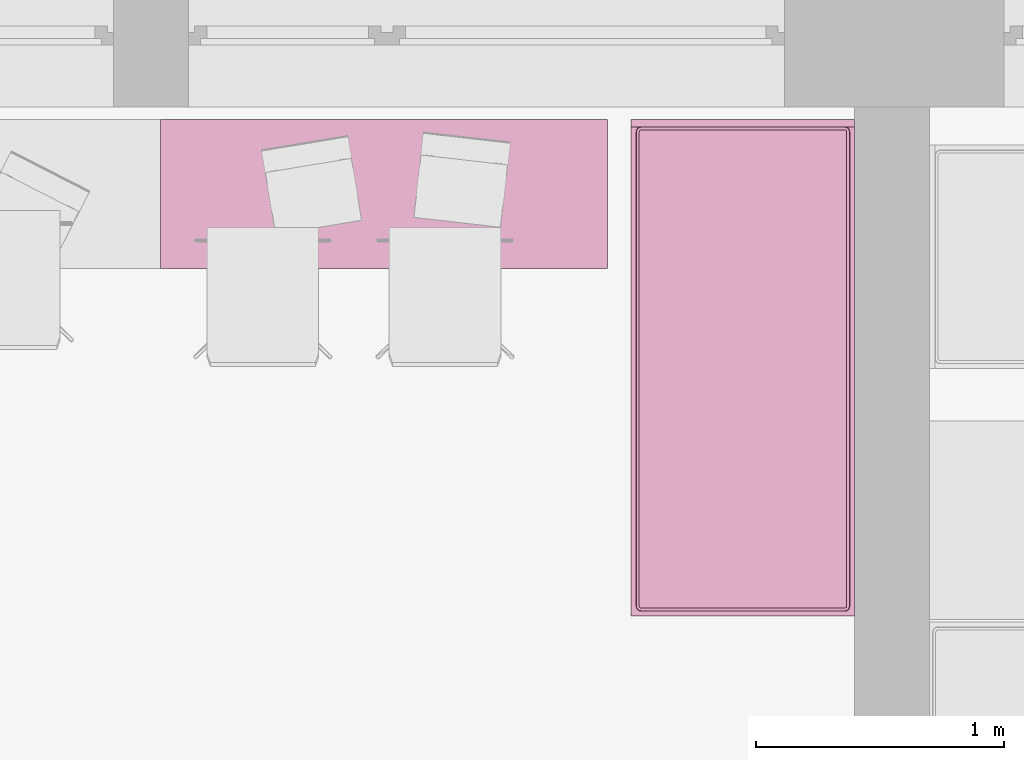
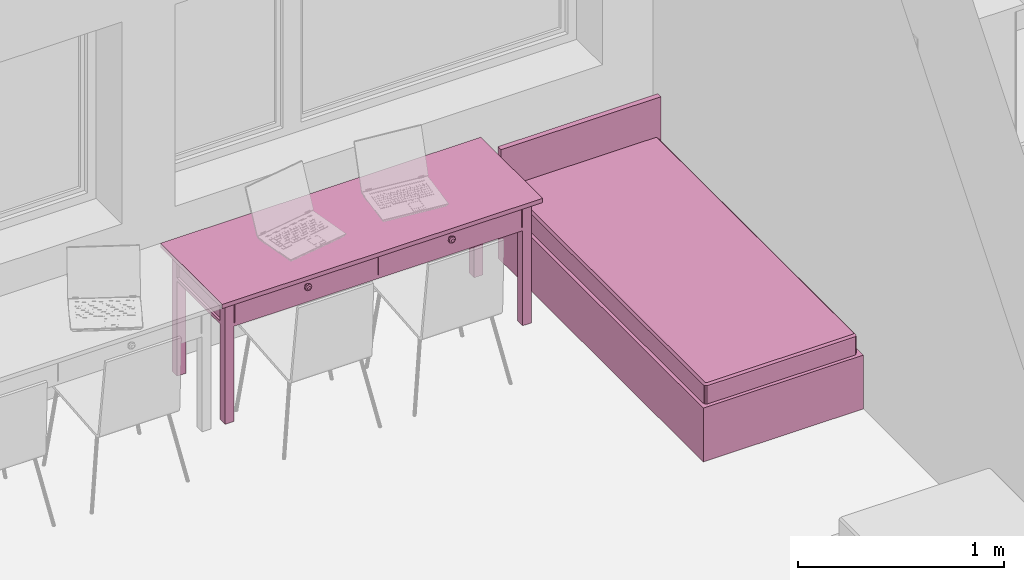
# One storey, part 91 of 172: 2 furnishings.
"""IFC2X3 building model written with IfcOpenShell, lengths in millimetres."""

from ifc_helpers import new_model, entity, si_unit, converted_unit, money_unit, direction, frame, origin_with_axes, place, context, subcontext, project, spatial, faceted_brep, source, transform, mapped, material, material_list, type_object, element, save


model = new_model("IFC2X3")

# Units and contexts
model_context = context("Model", 3, precision=1e-05, world=origin_with_axes(), true_north=direction((0.0, 1.0)))
body_context = subcontext(model_context, "Body", "Model", "MODEL_VIEW")
ifc_project = project(units=[si_unit("LENGTHUNIT", "METRE", prefix="MILLI"), si_unit("AREAUNIT", "SQUARE_METRE"), si_unit("VOLUMEUNIT", "CUBIC_METRE"), converted_unit("PLANEANGLEUNIT", "DEGREE", entity("IfcPlaneAngleMeasure", 0.0174532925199), si_unit("PLANEANGLEUNIT", "RADIAN"), dimensions=[0, 0, 0, 0, 0, 0, 0]), si_unit("SOLIDANGLEUNIT", "STERADIAN"), money_unit("USD"), converted_unit("TIMEUNIT", "Year", entity("IfcTimeMeasure", 31556926.0), si_unit("TIMEUNIT", "SECOND"), dimensions=[0, 0, 0, 0, 0, 0, 0]), si_unit("MASSUNIT", "GRAM"), si_unit("THERMODYNAMICTEMPERATUREUNIT", "DEGREE_CELSIUS"), si_unit("LUMINOUSINTENSITYUNIT", "LUMEN")], contexts=[model_context])

# Site, building, storey
site_placement = place(None, origin_with_axes())
site = spatial("IfcSite", under=ifc_project, at=site_placement, Name="Site", CompositionType="ELEMENT")
building_placement = place(site_placement, origin_with_axes())
building = spatial("IfcBuilding", under=site, at=building_placement, Name="Building", CompositionType="ELEMENT")
storey_placement = place(building_placement, frame((0.0, 0.0, 3200.0), z_axis=(0.0, 0.0, 1.0), x_axis=(1.0, 0.0, 0.0)))
storey = spatial("IfcBuildingStorey", under=building, at=storey_placement, Name="3KORRUS", CompositionType="ELEMENT", Elevation=3200.0)

# Furnishings
ifc_material = material(Name="Background")
ifc_material_list = material_list([ifc_material])
furnishing_element_type_1 = type_object("IfcFurnishingElementType", Name="Bed 19")
shared_shape_1 = source(origin_with_axes(), body_context, "Body", "Brep", [
    faceted_brep([(900.0, 1970.0, 0.0), (0.0, 1970.0, 0.0), (0.0, 2000.0, 0.0), (900.0, 2000.0, 0.0), (900.0, 1970.0, 660.0), (0.0, 1970.0, 660.0), (0.0, 2000.0, 660.0), (900.0, 2000.0, 660.0)], [[[0, 1, 2, 3]], [[1, 0, 4, 5]], [[2, 1, 5, 6]], [[3, 2, 6, 7]], [[0, 3, 7, 4]], [[5, 4, 7, 6]]]),
    faceted_brep([(900.0, 0.0, 0.0), (0.0, 0.0, 0.0), (0.0, 1970.0, 0.0), (900.0, 1970.0, 0.0), (900.0, 0.0, 320.0), (0.0, 0.0, 320.0), (0.0, 1970.0, 320.0), (900.0, 1970.0, 320.0)], [[[0, 1, 2, 3]], [[1, 0, 4, 5]], [[2, 1, 5, 6]], [[3, 2, 6, 7]], [[0, 3, 7, 4]], [[5, 4, 7, 6]]]),
    faceted_brep([(905.0, 10.0, 30.0), (900.0, 10.0, 30.0), (900.0, 695.0, 30.0), (905.0, 695.0, 30.0), (905.0, 10.0, 290.0), (900.0, 10.0, 290.0), (900.0, 695.0, 290.0), (905.0, 695.0, 290.0)], [[[0, 1, 2, 3]], [[1, 0, 4, 5]], [[2, 1, 5, 6]], [[3, 2, 6, 7]], [[0, 3, 7, 4]], [[5, 4, 7, 6]]]),
    faceted_brep([(935.0, 307.5, 150.0), (905.0, 307.5, 150.0), (905.0, 397.5, 150.0), (935.0, 397.5, 150.0), (935.0, 307.5, 170.0), (905.0, 307.5, 170.0), (905.0, 397.5, 170.0), (935.0, 397.5, 170.0)], [[[0, 1, 2, 3]], [[1, 0, 4, 5]], [[2, 1, 5, 6]], [[3, 2, 6, 7]], [[0, 3, 7, 4]], [[5, 4, 7, 6]]]),
    faceted_brep([(905.0, 705.0, 30.0), (900.0, 705.0, 30.0), (900.0, 1390.0, 30.0), (905.0, 1390.0, 30.0), (905.0, 705.0, 290.0), (900.0, 705.0, 290.0), (900.0, 1390.0, 290.0), (905.0, 1390.0, 290.0)], [[[0, 1, 2, 3]], [[1, 0, 4, 5]], [[2, 1, 5, 6]], [[3, 2, 6, 7]], [[0, 3, 7, 4]], [[5, 4, 7, 6]]]),
    faceted_brep([(935.0, 1002.5, 150.0), (905.0, 1002.5, 150.0), (905.0, 1092.5, 150.0), (935.0, 1092.5, 150.0), (935.0, 1002.5, 170.0), (905.0, 1002.5, 170.0), (905.0, 1092.5, 170.0), (935.0, 1092.5, 170.0)], [[[0, 1, 2, 3]], [[1, 0, 4, 5]], [[2, 1, 5, 6]], [[3, 2, 6, 7]], [[0, 3, 7, 4]], [[5, 4, 7, 6]]]),
    faceted_brep([(20.0, 40.0, 350.0), (20.0, 1950.0, 350.0), (21.522, 1957.654, 350.0), (25.858, 1964.142, 350.0), (32.346, 1968.478, 350.0), (40.0, 1970.0, 350.0), (860.0, 1970.0, 350.0), (867.654, 1968.478, 350.0), (874.142, 1964.142, 350.0), (878.478, 1957.654, 350.0), (880.0, 1950.0, 350.0), (880.0, 40.0, 350.0), (878.478, 32.346, 350.0), (874.142, 25.858, 350.0), (867.654, 21.522, 350.0), (860.0, 20.0, 350.0), (40.0, 20.0, 350.0), (32.346, 21.522, 350.0), (25.858, 25.858, 350.0), (21.522, 32.346, 350.0), (20.0, 40.0, 420.0), (20.0, 1950.0, 420.0), (21.522, 1957.654, 420.0), (25.858, 1964.142, 420.0), (32.346, 1968.478, 420.0), (40.0, 1970.0, 420.0), (860.0, 1970.0, 420.0), (867.654, 1968.478, 420.0), (874.142, 1964.142, 420.0), (878.478, 1957.654, 420.0), (880.0, 1950.0, 420.0), (880.0, 40.0, 420.0), (878.478, 32.346, 420.0), (874.142, 25.858, 420.0), (867.654, 21.522, 420.0), (860.0, 20.0, 420.0), (40.0, 20.0, 420.0), (32.346, 21.522, 420.0), (25.858, 25.858, 420.0), (21.522, 32.346, 420.0), (21.522, 40.15, 427.654), (21.522, 1949.85, 427.654), (22.956, 1957.06, 427.654), (26.955, 1963.045, 427.654), (32.94, 1967.044, 427.654), (40.15, 1968.478, 427.654), (859.85, 1968.478, 427.654), (867.06, 1967.044, 427.654), (873.045, 1963.045, 427.654), (877.044, 1957.06, 427.654), (878.478, 1949.85, 427.654), (878.478, 40.15, 427.654), (877.044, 32.94, 427.654), (873.045, 26.955, 427.654), (867.06, 22.956, 427.654), (859.85, 21.522, 427.654), (40.15, 21.522, 427.654), (32.94, 22.956, 427.654), (26.955, 26.955, 427.654), (22.956, 32.94, 427.654), (32.346, 41.216, 438.478), (32.346, 1948.784, 438.478), (33.152, 1952.836, 438.478), (34.759, 1955.241, 438.478), (37.164, 1956.848, 438.478), (41.216, 1957.654, 438.478), (858.784, 1957.654, 438.478), (862.836, 1956.848, 438.478), (865.241, 1955.241, 438.478), (866.848, 1952.836, 438.478), (867.654, 1948.784, 438.478), (867.654, 41.216, 438.478), (866.848, 37.164, 438.478), (865.241, 34.759, 438.478), (862.836, 33.152, 438.478), (858.784, 32.346, 438.478), (41.216, 32.346, 438.478), (37.164, 33.152, 438.478), (34.759, 34.759, 438.478), (33.152, 37.164, 438.478), (40.0, 41.97, 440.0), (40.0, 1948.03, 440.0), (40.327, 1949.673, 440.0), (40.0, 1950.0, 439.924), (41.97, 1950.0, 440.0), (858.03, 1950.0, 440.0), (859.673, 1949.673, 440.0), (860.0, 1950.0, 439.924), (860.0, 1948.03, 440.0), (860.0, 41.97, 440.0), (859.673, 40.327, 440.0), (860.0, 40.0, 439.924), (858.03, 40.0, 440.0), (41.97, 40.0, 440.0), (40.327, 40.327, 440.0), (40.0, 40.0, 439.924)], [[[0, 1, 2, 3, 4, 5, 6, 7, 8, 9, 10, 11, 12, 13, 14, 15, 16, 17, 18, 19]], [[1, 0, 20, 21]], [[2, 1, 21, 22]], [[3, 2, 22, 23]], [[4, 3, 23, 24]], [[5, 4, 24, 25]], [[6, 5, 25, 26]], [[7, 6, 26, 27]], [[8, 7, 27, 28]], [[9, 8, 28, 29]], [[10, 9, 29, 30]], [[11, 10, 30, 31]], [[12, 11, 31, 32]], [[13, 12, 32, 33]], [[14, 13, 33, 34]], [[15, 14, 34, 35]], [[16, 15, 35, 36]], [[17, 16, 36, 37]], [[18, 17, 37, 38]], [[19, 18, 38, 39]], [[0, 19, 39, 20]], [[21, 20, 40, 41]], [[22, 21, 41, 42]], [[23, 22, 42, 43]], [[24, 23, 43, 44]], [[25, 24, 44, 45]], [[26, 25, 45, 46]], [[27, 26, 46, 47]], [[28, 27, 47, 48]], [[29, 28, 48, 49]], [[30, 29, 49, 50]], [[31, 30, 50, 51]], [[32, 31, 51, 52]], [[33, 32, 52, 53]], [[34, 33, 53, 54]], [[35, 34, 54, 55]], [[36, 35, 55, 56]], [[37, 36, 56, 57]], [[38, 37, 57, 58]], [[39, 38, 58, 59]], [[20, 39, 59, 40]], [[41, 40, 60, 61]], [[42, 41, 61, 62]], [[43, 42, 62, 63]], [[44, 43, 63, 64]], [[45, 44, 64, 65]], [[46, 45, 65, 66]], [[47, 46, 66, 67]], [[48, 47, 67, 68]], [[49, 48, 68, 69]], [[50, 49, 69, 70]], [[51, 50, 70, 71]], [[52, 51, 71, 72]], [[53, 52, 72, 73]], [[54, 53, 73, 74]], [[55, 54, 74, 75]], [[56, 55, 75, 76]], [[57, 56, 76, 77]], [[58, 57, 77, 78]], [[59, 58, 78, 79]], [[40, 59, 79, 60]], [[61, 60, 80, 81]], [[62, 61, 81, 82, 83]], [[63, 62, 83]], [[64, 63, 83]], [[65, 64, 83, 82, 84]], [[66, 65, 84, 85]], [[67, 66, 85, 86, 87]], [[68, 67, 87]], [[69, 68, 87]], [[70, 69, 87, 86, 88]], [[71, 70, 88, 89]], [[72, 71, 89, 90, 91]], [[73, 72, 91]], [[74, 73, 91]], [[75, 74, 91, 90, 92]], [[76, 75, 92, 93]], [[77, 76, 93, 94, 95]], [[78, 77, 95]], [[79, 78, 95]], [[60, 79, 95, 94, 80]], [[81, 80, 94, 93, 92, 90, 89, 88, 86, 85, 84, 82]]]),
    faceted_brep([(20.0, 40.0, 350.0), (21.522, 32.346, 350.0), (25.858, 25.858, 350.0), (32.346, 21.522, 350.0), (40.0, 20.0, 350.0), (860.0, 20.0, 350.0), (867.654, 21.522, 350.0), (874.142, 25.858, 350.0), (878.478, 32.346, 350.0), (880.0, 40.0, 350.0), (880.0, 1950.0, 350.0), (878.478, 1957.654, 350.0), (874.142, 1964.142, 350.0), (867.654, 1968.478, 350.0), (860.0, 1970.0, 350.0), (40.0, 1970.0, 350.0), (32.346, 1968.478, 350.0), (25.858, 1964.142, 350.0), (21.522, 1957.654, 350.0), (20.0, 1950.0, 350.0), (20.0, 40.0, 320.0), (21.522, 32.346, 320.0), (25.858, 25.858, 320.0), (32.346, 21.522, 320.0), (40.0, 20.0, 320.0), (860.0, 20.0, 320.0), (867.654, 21.522, 320.0), (874.142, 25.858, 320.0), (878.478, 32.346, 320.0), (880.0, 40.0, 320.0), (880.0, 1950.0, 320.0), (878.478, 1957.654, 320.0), (874.142, 1964.142, 320.0), (867.654, 1968.478, 320.0), (860.0, 1970.0, 320.0), (40.0, 1970.0, 320.0), (32.346, 1968.478, 320.0), (25.858, 1964.142, 320.0), (21.522, 1957.654, 320.0), (20.0, 1950.0, 320.0)], [[[0, 1, 2, 3, 4, 5, 6, 7, 8, 9, 10, 11, 12, 13, 14, 15, 16, 17, 18, 19]], [[0, 20, 21, 1]], [[1, 21, 22, 2]], [[2, 22, 23, 3]], [[3, 23, 24, 4]], [[4, 24, 25, 5]], [[5, 25, 26, 6]], [[6, 26, 27, 7]], [[7, 27, 28, 8]], [[8, 28, 29, 9]], [[9, 29, 30, 10]], [[10, 30, 31, 11]], [[11, 31, 32, 12]], [[12, 32, 33, 13]], [[13, 33, 34, 14]], [[14, 34, 35, 15]], [[15, 35, 36, 16]], [[16, 36, 37, 17]], [[17, 37, 38, 18]], [[18, 38, 39, 19]], [[19, 39, 20, 0]], [[20, 39, 38, 37, 36, 35, 34, 33, 32, 31, 30, 29, 28, 27, 26, 25, 24, 23, 22, 21]]]),
])
furnishing_1_placement = place(storey_placement, frame((-43190.2967033, -7189.87086674, 0.0), z_axis=(0.0, 0.0, 1.0), x_axis=(1.0, 0.0, 0.0)))
element("IfcFurnishingElement", 1, at=furnishing_1_placement, inside=storey, type_object=furnishing_element_type_1, material=ifc_material_list, Name="FU - 013", context=body_context, shape_type="MappedRepresentation", body=[
    mapped(shared_shape_1, transform((0.0, 0.0, 0.0))),
])
furnishing_element_type_2 = type_object("IfcFurnishingElementType", Name="Rectangular Table 01 19")
shared_shape_2 = source(origin_with_axes(), body_context, "Body", "Brep", [
    faceted_brep([(90.0, 40.0, 0.0), (40.0, 40.0, 0.0), (40.0, 90.0, 0.0), (90.0, 90.0, 0.0), (90.0, 40.0, 725.0), (40.0, 40.0, 725.0), (40.0, 90.0, 725.0), (90.0, 90.0, 725.0)], [[[0, 1, 2, 3]], [[1, 0, 4, 5]], [[2, 1, 5, 6]], [[3, 2, 6, 7]], [[0, 3, 7, 4]], [[5, 4, 7, 6]]]),
    faceted_brep([(1760.0, 40.0, 0.0), (1710.0, 40.0, 0.0), (1710.0, 90.0, 0.0), (1760.0, 90.0, 0.0), (1760.0, 40.0, 725.0), (1710.0, 40.0, 725.0), (1710.0, 90.0, 725.0), (1760.0, 90.0, 725.0)], [[[0, 1, 2, 3]], [[1, 0, 4, 5]], [[2, 1, 5, 6]], [[3, 2, 6, 7]], [[0, 3, 7, 4]], [[5, 4, 7, 6]]]),
    faceted_brep([(90.0, 510.0, 0.0), (40.0, 510.0, 0.0), (40.0, 560.0, 0.0), (90.0, 560.0, 0.0), (90.0, 510.0, 725.0), (40.0, 510.0, 725.0), (40.0, 560.0, 725.0), (90.0, 560.0, 725.0)], [[[0, 1, 2, 3]], [[1, 0, 4, 5]], [[2, 1, 5, 6]], [[3, 2, 6, 7]], [[0, 3, 7, 4]], [[5, 4, 7, 6]]]),
    faceted_brep([(1760.0, 510.0, 0.0), (1710.0, 510.0, 0.0), (1710.0, 560.0, 0.0), (1760.0, 560.0, 0.0), (1760.0, 510.0, 725.0), (1710.0, 510.0, 725.0), (1710.0, 560.0, 725.0), (1760.0, 560.0, 725.0)], [[[0, 1, 2, 3]], [[1, 0, 4, 5]], [[2, 1, 5, 6]], [[3, 2, 6, 7]], [[0, 3, 7, 4]], [[5, 4, 7, 6]]]),
    faceted_brep([(1760.0, 40.0, 565.0), (40.0, 40.0, 565.0), (40.0, 560.0, 565.0), (1760.0, 560.0, 565.0), (1760.0, 40.0, 585.0), (40.0, 40.0, 585.0), (40.0, 560.0, 585.0), (1760.0, 560.0, 585.0)], [[[0, 1, 2, 3]], [[1, 0, 4, 5]], [[2, 1, 5, 6]], [[3, 2, 6, 7]], [[0, 3, 7, 4]], [[5, 4, 7, 6]]]),
    faceted_brep([(1710.0, 52.5, 585.0), (90.0, 52.5, 585.0), (90.0, 77.5, 585.0), (1710.0, 77.5, 585.0), (1710.0, 52.5, 745.0), (90.0, 52.5, 745.0), (90.0, 77.5, 745.0), (1710.0, 77.5, 745.0)], [[[0, 1, 2, 3]], [[1, 0, 4, 5]], [[2, 1, 5, 6]], [[3, 2, 6, 7]], [[0, 3, 7, 4]], [[5, 4, 7, 6]]]),
    faceted_brep([(77.5, 90.0, 585.0), (52.5, 90.0, 585.0), (52.5, 510.0, 585.0), (77.5, 510.0, 585.0), (77.5, 90.0, 745.0), (52.5, 90.0, 745.0), (52.5, 510.0, 745.0), (77.5, 510.0, 745.0)], [[[0, 1, 2, 3]], [[1, 0, 4, 5]], [[2, 1, 5, 6]], [[3, 2, 6, 7]], [[0, 3, 7, 4]], [[5, 4, 7, 6]]]),
    faceted_brep([(90.0, 547.5, 585.0), (1710.0, 547.5, 585.0), (1710.0, 522.5, 585.0), (90.0, 522.5, 585.0), (90.0, 547.5, 745.0), (1710.0, 547.5, 745.0), (1710.0, 522.5, 745.0), (90.0, 522.5, 745.0)], [[[0, 1, 2, 3]], [[1, 0, 4, 5]], [[2, 1, 5, 6]], [[3, 2, 6, 7]], [[0, 3, 7, 4]], [[5, 4, 7, 6]]]),
    faceted_brep([(1722.5, 510.0, 585.0), (1747.5, 510.0, 585.0), (1747.5, 90.0, 585.0), (1722.5, 90.0, 585.0), (1722.5, 510.0, 745.0), (1747.5, 510.0, 745.0), (1747.5, 90.0, 745.0), (1722.5, 90.0, 745.0)], [[[0, 1, 2, 3]], [[1, 0, 4, 5]], [[2, 1, 5, 6]], [[3, 2, 6, 7]], [[0, 3, 7, 4]], [[5, 4, 7, 6]]]),
    faceted_brep([(897.5, 40.0, 585.0), (95.0, 40.0, 585.0), (95.0, 60.0, 585.0), (897.5, 60.0, 585.0), (897.5, 40.0, 745.0), (95.0, 40.0, 745.0), (95.0, 60.0, 745.0), (897.5, 60.0, 745.0)], [[[0, 1, 2, 3]], [[1, 0, 4, 5]], [[2, 1, 5, 6]], [[3, 2, 6, 7]], [[0, 3, 7, 4]], [[5, 4, 7, 6]]]),
    faceted_brep([(1705.0, 40.0, 585.0), (902.5, 40.0, 585.0), (902.5, 60.0, 585.0), (1705.0, 60.0, 585.0), (1705.0, 40.0, 745.0), (902.5, 40.0, 745.0), (902.5, 60.0, 745.0), (1705.0, 60.0, 745.0)], [[[0, 1, 2, 3]], [[1, 0, 4, 5]], [[2, 1, 5, 6]], [[3, 2, 6, 7]], [[0, 3, 7, 4]], [[5, 4, 7, 6]]]),
    faceted_brep([(504.91, 40.0, 660.0), (501.25, 40.0, 656.34), (496.25, 40.0, 655.0), (491.25, 40.0, 656.34), (487.59, 40.0, 660.0), (486.25, 40.0, 665.0), (487.59, 40.0, 670.0), (491.25, 40.0, 673.66), (496.25, 40.0, 675.0), (501.25, 40.0, 673.66), (504.91, 40.0, 670.0), (506.25, 40.0, 665.0), (504.91, 25.0, 660.0), (501.25, 25.0, 656.34), (496.25, 25.0, 655.0), (491.25, 25.0, 656.34), (487.59, 25.0, 660.0), (486.25, 25.0, 665.0), (487.59, 25.0, 670.0), (491.25, 25.0, 673.66), (496.25, 25.0, 675.0), (501.25, 25.0, 673.66), (504.91, 25.0, 670.0), (506.25, 25.0, 665.0)], [[[0, 1, 2, 3, 4, 5, 6, 7, 8, 9, 10, 11]], [[1, 0, 12, 13]], [[2, 1, 13, 14]], [[3, 2, 14, 15]], [[4, 3, 15, 16]], [[5, 4, 16, 17]], [[6, 5, 17, 18]], [[7, 6, 18, 19]], [[8, 7, 19, 20]], [[9, 8, 20, 21]], [[10, 9, 21, 22]], [[11, 10, 22, 23]], [[0, 11, 23, 12]], [[12, 23, 22, 21, 20, 19, 18, 17, 16, 15, 14, 13]]]),
    faceted_brep([(506.25, 12.01, 665.0), (496.25, 10.0, 665.0), (504.91, 12.01, 660.0), (504.91, 12.01, 670.0), (501.25, 12.01, 656.34), (513.571, 17.5, 665.0), (511.25, 17.5, 656.34), (501.25, 12.01, 673.66), (511.25, 17.5, 673.66), (496.25, 12.01, 655.0), (504.91, 17.5, 650.0), (516.25, 25.0, 665.0), (513.571, 25.0, 655.0), (496.25, 12.01, 675.0), (504.91, 17.5, 680.0), (513.571, 25.0, 675.0), (491.25, 12.01, 656.34), (496.25, 17.5, 647.679), (506.25, 25.0, 647.679), (496.25, 25.0, 645.0), (486.25, 25.0, 647.679), (478.929, 25.0, 655.0), (476.25, 25.0, 665.0), (478.929, 25.0, 675.0), (486.25, 25.0, 682.321), (496.25, 25.0, 685.0), (506.25, 25.0, 682.321), (491.25, 12.01, 673.66), (496.25, 17.5, 682.321), (487.59, 12.01, 660.0), (487.59, 17.5, 650.0), (481.25, 17.5, 656.34), (478.929, 17.5, 665.0), (481.25, 17.5, 673.66), (487.59, 17.5, 680.0), (487.59, 12.01, 670.0), (486.25, 12.01, 665.0)], [[[0, 1, 2]], [[3, 1, 0]], [[2, 1, 4]], [[5, 0, 2, 6]], [[7, 1, 3]], [[8, 3, 0, 5]], [[4, 1, 9]], [[6, 2, 4, 10]], [[11, 5, 6, 12]], [[13, 1, 7]], [[14, 7, 3, 8]], [[15, 8, 5, 11]], [[9, 1, 16]], [[10, 4, 9, 17]], [[12, 6, 10, 18]], [[12, 18, 19, 20, 21, 22, 23, 24, 25, 26, 15, 11]], [[27, 1, 13]], [[28, 13, 7, 14]], [[26, 14, 8, 15]], [[16, 1, 29]], [[17, 9, 16, 30]], [[18, 10, 17, 19]], [[19, 17, 30, 20]], [[20, 30, 31, 21]], [[21, 31, 32, 22]], [[22, 32, 33, 23]], [[23, 33, 34, 24]], [[24, 34, 28, 25]], [[25, 28, 14, 26]], [[35, 1, 27]], [[34, 27, 13, 28]], [[29, 1, 36]], [[30, 16, 29, 31]], [[31, 29, 36, 32]], [[32, 36, 35, 33]], [[33, 35, 27, 34]], [[36, 1, 35]]]),
    faceted_brep([(1312.41, 40.0, 660.0), (1308.75, 40.0, 656.34), (1303.75, 40.0, 655.0), (1298.75, 40.0, 656.34), (1295.09, 40.0, 660.0), (1293.75, 40.0, 665.0), (1295.09, 40.0, 670.0), (1298.75, 40.0, 673.66), (1303.75, 40.0, 675.0), (1308.75, 40.0, 673.66), (1312.41, 40.0, 670.0), (1313.75, 40.0, 665.0), (1312.41, 25.0, 660.0), (1308.75, 25.0, 656.34), (1303.75, 25.0, 655.0), (1298.75, 25.0, 656.34), (1295.09, 25.0, 660.0), (1293.75, 25.0, 665.0), (1295.09, 25.0, 670.0), (1298.75, 25.0, 673.66), (1303.75, 25.0, 675.0), (1308.75, 25.0, 673.66), (1312.41, 25.0, 670.0), (1313.75, 25.0, 665.0)], [[[0, 1, 2, 3, 4, 5, 6, 7, 8, 9, 10, 11]], [[1, 0, 12, 13]], [[2, 1, 13, 14]], [[3, 2, 14, 15]], [[4, 3, 15, 16]], [[5, 4, 16, 17]], [[6, 5, 17, 18]], [[7, 6, 18, 19]], [[8, 7, 19, 20]], [[9, 8, 20, 21]], [[10, 9, 21, 22]], [[11, 10, 22, 23]], [[0, 11, 23, 12]], [[12, 23, 22, 21, 20, 19, 18, 17, 16, 15, 14, 13]]]),
    faceted_brep([(1313.75, 12.01, 665.0), (1303.75, 10.0, 665.0), (1312.41, 12.01, 660.0), (1312.41, 12.01, 670.0), (1308.75, 12.01, 656.34), (1321.071, 17.5, 665.0), (1318.75, 17.5, 656.34), (1308.75, 12.01, 673.66), (1318.75, 17.5, 673.66), (1303.75, 12.01, 655.0), (1312.41, 17.5, 650.0), (1323.75, 25.0, 665.0), (1321.071, 25.0, 655.0), (1303.75, 12.01, 675.0), (1312.41, 17.5, 680.0), (1321.071, 25.0, 675.0), (1298.75, 12.01, 656.34), (1303.75, 17.5, 647.679), (1313.75, 25.0, 647.679), (1303.75, 25.0, 645.0), (1293.75, 25.0, 647.679), (1286.429, 25.0, 655.0), (1283.75, 25.0, 665.0), (1286.429, 25.0, 675.0), (1293.75, 25.0, 682.321), (1303.75, 25.0, 685.0), (1313.75, 25.0, 682.321), (1298.75, 12.01, 673.66), (1303.75, 17.5, 682.321), (1295.09, 12.01, 660.0), (1295.09, 17.5, 650.0), (1288.75, 17.5, 656.34), (1286.429, 17.5, 665.0), (1288.75, 17.5, 673.66), (1295.09, 17.5, 680.0), (1295.09, 12.01, 670.0), (1293.75, 12.01, 665.0)], [[[0, 1, 2]], [[3, 1, 0]], [[2, 1, 4]], [[5, 0, 2, 6]], [[7, 1, 3]], [[8, 3, 0, 5]], [[4, 1, 9]], [[6, 2, 4, 10]], [[11, 5, 6, 12]], [[13, 1, 7]], [[14, 7, 3, 8]], [[15, 8, 5, 11]], [[9, 1, 16]], [[10, 4, 9, 17]], [[12, 6, 10, 18]], [[12, 18, 19, 20, 21, 22, 23, 24, 25, 26, 15, 11]], [[27, 1, 13]], [[28, 13, 7, 14]], [[26, 14, 8, 15]], [[16, 1, 29]], [[17, 9, 16, 30]], [[18, 10, 17, 19]], [[19, 17, 30, 20]], [[20, 30, 31, 21]], [[21, 31, 32, 22]], [[22, 32, 33, 23]], [[23, 33, 34, 24]], [[24, 34, 28, 25]], [[25, 28, 14, 26]], [[35, 1, 27]], [[34, 27, 13, 28]], [[29, 1, 36]], [[30, 16, 29, 31]], [[31, 29, 36, 32]], [[32, 36, 35, 33]], [[33, 35, 27, 34]], [[36, 1, 35]]]),
    faceted_brep([(1800.0, 0.0, 725.0), (0.0, 0.0, 725.0), (0.0, 600.0, 725.0), (1800.0, 600.0, 725.0), (1800.0, 0.0, 750.0), (0.0, 0.0, 750.0), (0.0, 600.0, 750.0), (1800.0, 600.0, 750.0)], [[[0, 1, 2, 3]], [[1, 0, 4, 5]], [[2, 1, 5, 6]], [[3, 2, 6, 7]], [[0, 3, 7, 4]], [[5, 4, 7, 6]]]),
])
furnishing_2_placement = place(storey_placement, frame((-45084.9154291, -5789.87086674, 0.0), z_axis=(0.0, 0.0, 1.0), x_axis=(1.0, 0.0, 0.0)))
element("IfcFurnishingElement", 2, at=furnishing_2_placement, inside=storey, type_object=furnishing_element_type_2, material=ifc_material_list, Name="FU - 011", context=body_context, shape_type="MappedRepresentation", body=[
    mapped(shared_shape_2, transform((0.0, 0.0, 0.0))),
])

save(model, "model.ifc")
